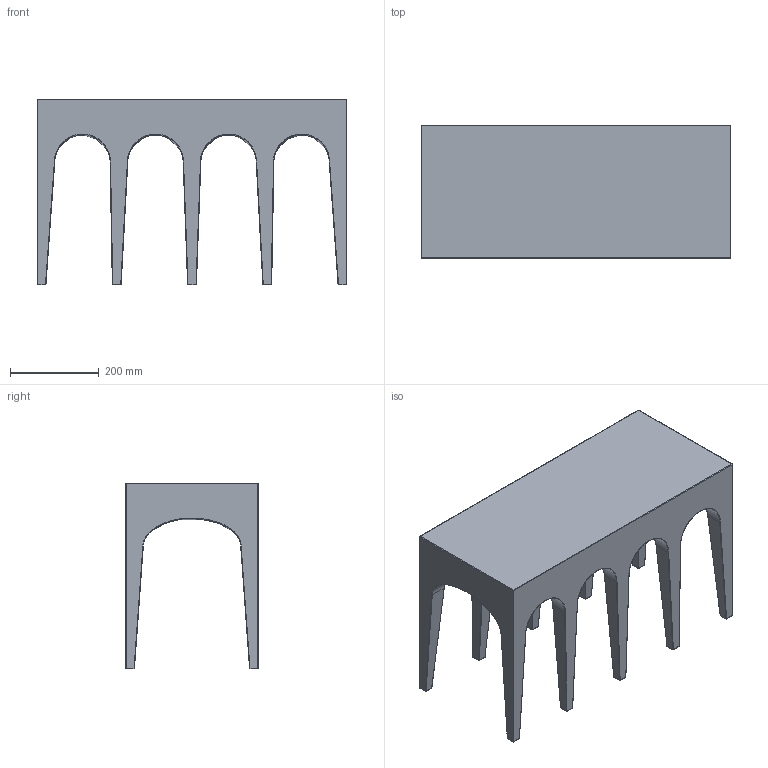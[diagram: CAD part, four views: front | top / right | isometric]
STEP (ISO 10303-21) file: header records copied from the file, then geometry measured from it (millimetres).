
FILE_DESCRIPTION(/* description */ (''),/* implementation_level */ '2;1');
FILE_NAME(/* name */ 'Bow Bench',/* time_stamp */ '2023-01-26T11:10:58+01:00',/* author */ (''),/* organization */ (''),/* preprocessor_version */ 'ST-DEVELOPER v15',/* originating_system */ '',/* authorisation */ '');
FILE_SCHEMA (('AUTOMOTIVE_DESIGN'));
Length unit declared in the file: millimetre
Products named in the file (1): Document
Bounding box: 700 x 300 x 420 mm (x, y, z)
Volume: 22173073.9 mm3; surface area: 993085.6 mm2
Topology: 1 solids, 1 shells, 294 faces, 592 edges, 284 vertices
Faces by surface type: bspline 279, plane 15
Entity records: 10594 total; most frequent: CARTESIAN_POINT 7497, ORIENTED_EDGE 1152, EDGE_CURVE 576, ADVANCED_FACE 294, FACE_OUTER_BOUND 294, EDGE_LOOP 294, VERTEX_POINT 284, B_SPLINE_CURVE_WITH_KNOTS 133
